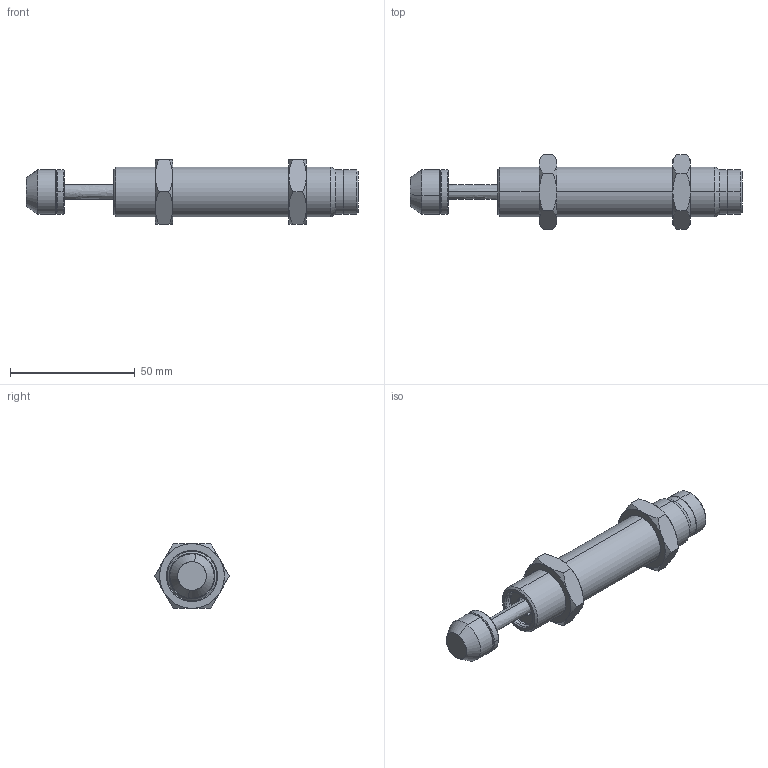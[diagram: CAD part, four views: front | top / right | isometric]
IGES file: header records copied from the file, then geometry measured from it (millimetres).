
Start section: SolidWorks IGES file using analytic representation for surfaces
Global section: file name: D:\IGS跡宒\AC2020-C.IGS,1; native system: 5HSolidWorks 2013; preprocessor: SolidWorks 2013; author: Administrator; date: 160406.152032; units: inch
Bounding box: 133.3 x 30.02 x 26 mm (x, y, z)
Surface area: 12183.3 mm2 (no closed solid volume)
Topology: 0 solids, 0 shells, 101 faces, 1576 edges, 1576 vertices
Faces by surface type: revolution 76, bspline 25
